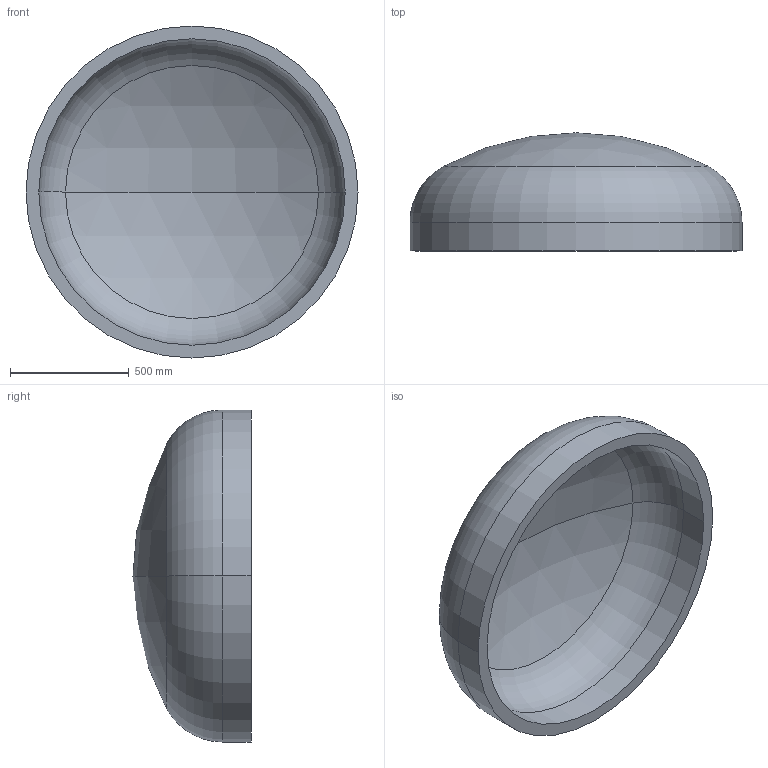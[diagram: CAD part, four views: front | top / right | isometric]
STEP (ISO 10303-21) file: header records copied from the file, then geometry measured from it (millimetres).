
FILE_DESCRIPTION (( 'STEP AP203' ), '1' );
FILE_NAME ('DIN 28013 Korbbogenform_-_Boden DIN 28013 - 1400 x 120 - I - s=54.step', '2016-07-01T10:21:21', ( '' ), ( '' ), 'SwSTEP 2.0', 'SolidWorks 2013', '' );
FILE_SCHEMA (( 'CONFIG_CONTROL_DESIGN' ));
Length unit declared in the file: millimetre
Products named in the file (1): DIN 28013 Korbbogenform_-_Boden DIN 28013 - 1400 x 120 - I - s=54
Bounding box: 1400 x 498.22 x 1400 mm (x, y, z)
Volume: 136849728.6 mm3; surface area: 5302957.9 mm2
Topology: 1 solids, 1 shells, 13 faces, 24 edges, 14 vertices
Faces by surface type: torus 4, cylinder 4, sphere 4, plane 1
Entity records: 407 total; most frequent: DIRECTION 72, CARTESIAN_POINT 52, ORIENTED_EDGE 48, AXIS2_PLACEMENT_3D 34, EDGE_CURVE 24, CIRCLE 20, EDGE_LOOP 14, VERTEX_POINT 14
